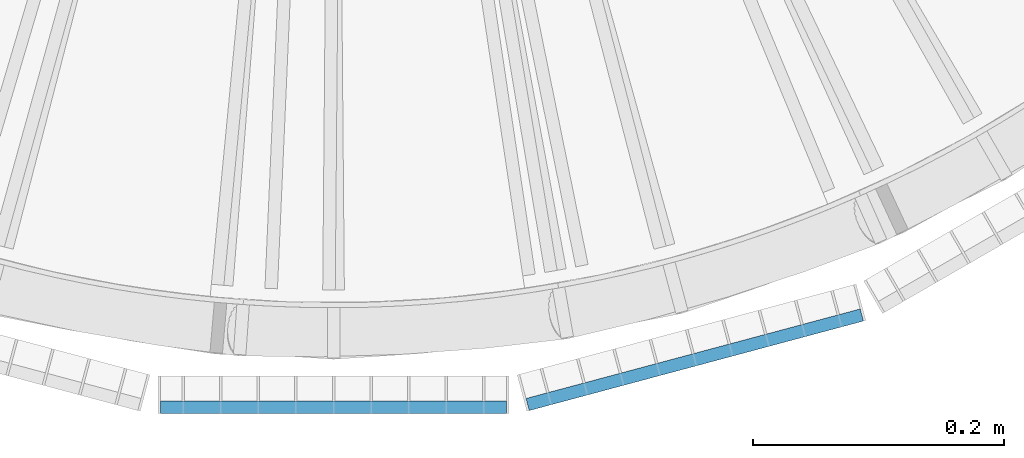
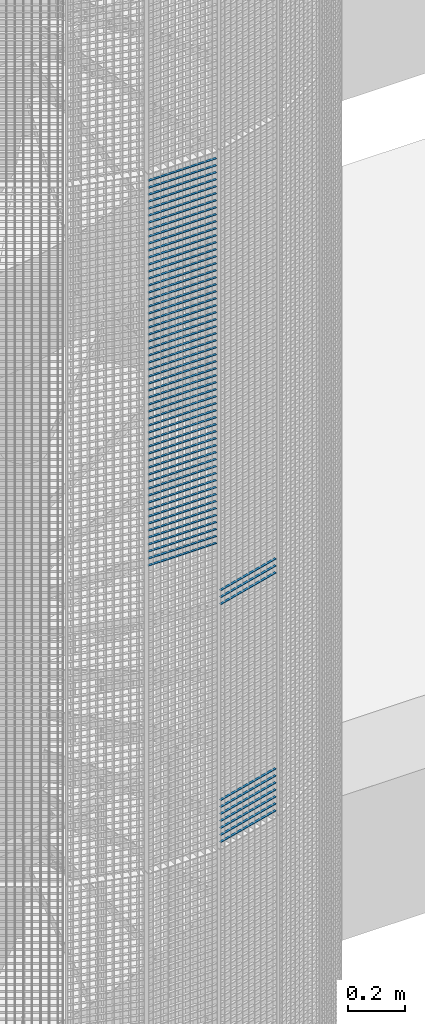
# One storey, part 148 of 1148: 66 beams, 2 elements without a shape of their own.
"""IFC2X3 building model written with IfcOpenShell, lengths in millimetres."""

from ifc_helpers import new_model, si_unit, frame, origin_with_axes, origin_2d_with_axis, place, context, subcontext, project, spatial, rectangle, extrude, material, type_object, element, aggregate, save


model = new_model("IFC2X3")

# Units and contexts
model_context = context("Model", 3, precision=1e-05, world=origin_with_axes())
body_context = subcontext(model_context, "Body", "Model", "MODEL_VIEW")
ifc_project = project(units=[si_unit("LENGTHUNIT", "METRE", prefix="MILLI"), si_unit("AREAUNIT", "SQUARE_METRE"), si_unit("VOLUMEUNIT", "CUBIC_METRE"), si_unit("MASSUNIT", "GRAM", prefix="KILO"), si_unit("TIMEUNIT", "SECOND"), si_unit("PLANEANGLEUNIT", "RADIAN"), si_unit("SOLIDANGLEUNIT", "STERADIAN"), si_unit("THERMODYNAMICTEMPERATUREUNIT", "DEGREE_CELSIUS"), si_unit("LUMINOUSINTENSITYUNIT", "LUMEN")], contexts=[model_context])

# Site, building, storey
site_placement = place(None, origin_with_axes())
site = spatial("IfcSite", under=ifc_project, at=site_placement, Name="Undefined", CompositionType="ELEMENT")
building_placement = place(site_placement, origin_with_axes())
building = spatial("IfcBuilding", under=site, at=building_placement, Name="Undefined", CompositionType="ELEMENT")
storey_placement = place(building_placement, origin_with_axes())
storey = spatial("IfcBuildingStorey", under=building, at=storey_placement, Name="Undefined", CompositionType="ELEMENT", Elevation=0.0)

# Assembly, beams
assembly_1_placement = place(storey_placement, origin_with_axes())
assembly_1 = element("IfcElementAssembly", 1, at=assembly_1_placement, inside=storey, Name="BORDURE", AssemblyPlace="NOTDEFINED", PredefinedType="NOTDEFINED")
ifc_material = material(Name="STEEL/S235JR")
beam_type = type_object("IfcBeamType", Name="PL2*10", PredefinedType="NOTDEFINED")
beam_1_placement = place(assembly_1_placement, frame((154.895926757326, -1111.25508286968, 9210.0), z_axis=(0.258819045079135, -0.965925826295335, 0.0), x_axis=(0.965925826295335, 0.258819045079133, 0.0)))
beam_1 = element("IfcBeam", 2, at=beam_1_placement, type_object=beam_type, material=ifc_material, Name="ENTRETOISE", context=body_context, shape_type="SweptSolid", body=[
    extrude(rectangle(XDim=2.0, YDim=10.0, at=origin_2d_with_axis()), frame((275.999999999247, 9.09494701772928e-13, 1.53210777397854e-14), z_axis=(-1.0, 0.0, 0.0), x_axis=(0.0, -1.0, 0.0)), (0.0, 0.0, 1.0), 276.0),
])
beam_2_placement = place(assembly_1_placement, frame((154.895926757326, -1111.25508286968, 9180.0), z_axis=(0.258819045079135, -0.965925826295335, 0.0), x_axis=(0.965925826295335, 0.258819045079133, 0.0)))
beam_2 = element("IfcBeam", 3, at=beam_2_placement, type_object=beam_type, material=ifc_material, Name="ENTRETOISE", context=body_context, shape_type="SweptSolid", body=[
    extrude(rectangle(XDim=2.0, YDim=10.0, at=origin_2d_with_axis()), frame((275.999999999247, 9.09494701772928e-13, 1.53210777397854e-14), z_axis=(-1.0, 0.0, 0.0), x_axis=(0.0, -1.0, 0.0)), (0.0, 0.0, 1.0), 276.0),
])
beam_3_placement = place(assembly_1_placement, frame((154.895926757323, -1111.25508286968, 10050.0), z_axis=(0.258819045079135, -0.965925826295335, 0.0), x_axis=(0.965925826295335, 0.258819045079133, 0.0)))
beam_3 = element("IfcBeam", 4, at=beam_3_placement, type_object=beam_type, material=ifc_material, Name="ENTRETOISE", context=body_context, shape_type="SweptSolid", body=[
    extrude(rectangle(XDim=2.0, YDim=10.0, at=origin_2d_with_axis()), frame((275.999999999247, 9.09494701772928e-13, 1.53210777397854e-14), z_axis=(-1.0, 0.0, 0.0), x_axis=(0.0, -1.0, 0.0)), (0.0, 0.0, 1.0), 276.0),
])
beam_4_placement = place(assembly_1_placement, frame((154.895926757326, -1111.25508286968, 9150.0), z_axis=(0.258819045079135, -0.965925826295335, 0.0), x_axis=(0.965925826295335, 0.258819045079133, 0.0)))
beam_4 = element("IfcBeam", 5, at=beam_4_placement, type_object=beam_type, material=ifc_material, Name="ENTRETOISE", context=body_context, shape_type="SweptSolid", body=[
    extrude(rectangle(XDim=2.0, YDim=10.0, at=origin_2d_with_axis()), frame((275.999999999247, 9.09494701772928e-13, 1.53210777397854e-14), z_axis=(-1.0, 0.0, 0.0), x_axis=(0.0, -1.0, 0.0)), (0.0, 0.0, 1.0), 276.0),
])
beam_5_placement = place(assembly_1_placement, frame((154.895926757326, -1111.25508286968, 9120.0), z_axis=(0.258819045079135, -0.965925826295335, 0.0), x_axis=(0.965925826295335, 0.258819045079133, 0.0)))
beam_5 = element("IfcBeam", 6, at=beam_5_placement, type_object=beam_type, material=ifc_material, Name="ENTRETOISE", context=body_context, shape_type="SweptSolid", body=[
    extrude(rectangle(XDim=2.0, YDim=10.0, at=origin_2d_with_axis()), frame((275.999999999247, 9.09494701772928e-13, 1.53210777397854e-14), z_axis=(-1.0, 0.0, 0.0), x_axis=(0.0, -1.0, 0.0)), (0.0, 0.0, 1.0), 276.0),
])
beam_6_placement = place(assembly_1_placement, frame((154.895926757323, -1111.25508286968, 10080.0), z_axis=(0.258819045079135, -0.965925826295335, 0.0), x_axis=(0.965925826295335, 0.258819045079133, 0.0)))
beam_6 = element("IfcBeam", 7, at=beam_6_placement, type_object=beam_type, material=ifc_material, Name="ENTRETOISE", context=body_context, shape_type="SweptSolid", body=[
    extrude(rectangle(XDim=2.0, YDim=10.0, at=origin_2d_with_axis()), frame((275.999999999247, 9.09494701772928e-13, 1.53210777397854e-14), z_axis=(-1.0, 0.0, 0.0), x_axis=(0.0, -1.0, 0.0)), (0.0, 0.0, 1.0), 276.0),
])
beam_7_placement = place(assembly_1_placement, frame((154.895926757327, -1111.25508286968, 9090.0), z_axis=(0.258819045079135, -0.965925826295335, 0.0), x_axis=(0.965925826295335, 0.258819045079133, 0.0)))
beam_7 = element("IfcBeam", 8, at=beam_7_placement, type_object=beam_type, material=ifc_material, Name="ENTRETOISE", context=body_context, shape_type="SweptSolid", body=[
    extrude(rectangle(XDim=2.0, YDim=10.0, at=origin_2d_with_axis()), frame((275.999999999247, 9.09494701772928e-13, 1.53210777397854e-14), z_axis=(-1.0, 0.0, 0.0), x_axis=(0.0, -1.0, 0.0)), (0.0, 0.0, 1.0), 276.0),
])
beam_8_placement = place(assembly_1_placement, frame((154.895926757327, -1111.25508286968, 9060.0), z_axis=(0.258819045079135, -0.965925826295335, 0.0), x_axis=(0.965925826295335, 0.258819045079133, 0.0)))
beam_8 = element("IfcBeam", 9, at=beam_8_placement, type_object=beam_type, material=ifc_material, Name="ENTRETOISE", context=body_context, shape_type="SweptSolid", body=[
    extrude(rectangle(XDim=2.0, YDim=10.0, at=origin_2d_with_axis()), frame((275.999999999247, 9.09494701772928e-13, 1.53210777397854e-14), z_axis=(-1.0, 0.0, 0.0), x_axis=(0.0, -1.0, 0.0)), (0.0, 0.0, 1.0), 276.0),
])
beam_9_placement = place(assembly_1_placement, frame((154.895926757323, -1111.25508286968, 10110.0), z_axis=(0.258819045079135, -0.965925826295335, 0.0), x_axis=(0.965925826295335, 0.258819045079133, 0.0)))
beam_9 = element("IfcBeam", 10, at=beam_9_placement, type_object=beam_type, material=ifc_material, Name="ENTRETOISE", context=body_context, shape_type="SweptSolid", body=[
    extrude(rectangle(XDim=2.0, YDim=10.0, at=origin_2d_with_axis()), frame((275.999999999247, 9.09494701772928e-13, 1.53210777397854e-14), z_axis=(-1.0, 0.0, 0.0), x_axis=(0.0, -1.0, 0.0)), (0.0, 0.0, 1.0), 276.0),
])
beam_10_placement = place(assembly_1_placement, frame((154.895926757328, -1111.25508286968, 9030.0), z_axis=(0.258819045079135, -0.965925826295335, 0.0), x_axis=(0.965925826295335, 0.258819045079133, 0.0)))
beam_10 = element("IfcBeam", 11, at=beam_10_placement, type_object=beam_type, material=ifc_material, Name="ENTRETOISE", context=body_context, shape_type="SweptSolid", body=[
    extrude(rectangle(XDim=2.0, YDim=10.0, at=origin_2d_with_axis()), frame((275.999999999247, 9.09494701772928e-13, 1.53210777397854e-14), z_axis=(-1.0, 0.0, 0.0), x_axis=(0.0, -1.0, 0.0)), (0.0, 0.0, 1.0), 276.0),
])
aggregate(assembly_1, [beam_1, beam_2, beam_3, beam_4, beam_5, beam_6, beam_7, beam_8, beam_9, beam_10])

assembly_2_placement = place(storey_placement, origin_with_axes())
assembly_2 = element("IfcElementAssembly", 12, at=assembly_2_placement, inside=storey, Name="BORDURE", AssemblyPlace="NOTDEFINED", PredefinedType="NOTDEFINED")
beam_11_placement = place(assembly_2_placement, frame((-137.996003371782, -1113.47999999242, 11970.0), z_axis=(0.0, -1.0, 0.0), x_axis=(1.0, 0.0, 0.0)))
beam_11 = element("IfcBeam", 13, at=beam_11_placement, type_object=beam_type, material=ifc_material, Name="ENTRETOISE", context=body_context, shape_type="SweptSolid", body=[
    extrude(rectangle(XDim=2.0, YDim=10.0, at=origin_2d_with_axis()), frame((275.999999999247, 9.09494701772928e-13, 1.53210777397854e-14), z_axis=(-1.0, 0.0, 0.0), x_axis=(0.0, -1.0, 0.0)), (0.0, 0.0, 1.0), 276.0),
])
beam_12_placement = place(assembly_2_placement, frame((-137.996003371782, -1113.47999999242, 11940.0), z_axis=(0.0, -1.0, 0.0), x_axis=(1.0, 0.0, 0.0)))
beam_12 = element("IfcBeam", 14, at=beam_12_placement, type_object=beam_type, material=ifc_material, Name="ENTRETOISE", context=body_context, shape_type="SweptSolid", body=[
    extrude(rectangle(XDim=2.0, YDim=10.0, at=origin_2d_with_axis()), frame((275.999999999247, 9.09494701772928e-13, 1.53210777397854e-14), z_axis=(-1.0, 0.0, 0.0), x_axis=(0.0, -1.0, 0.0)), (0.0, 0.0, 1.0), 276.0),
])
beam_13_placement = place(assembly_2_placement, frame((-137.996003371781, -1113.47999999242, 11910.0), z_axis=(0.0, -1.0, 0.0), x_axis=(1.0, 0.0, 0.0)))
beam_13 = element("IfcBeam", 15, at=beam_13_placement, type_object=beam_type, material=ifc_material, Name="ENTRETOISE", context=body_context, shape_type="SweptSolid", body=[
    extrude(rectangle(XDim=2.0, YDim=10.0, at=origin_2d_with_axis()), frame((275.999999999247, 9.09494701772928e-13, 1.53210777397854e-14), z_axis=(-1.0, 0.0, 0.0), x_axis=(0.0, -1.0, 0.0)), (0.0, 0.0, 1.0), 276.0),
])
beam_14_placement = place(assembly_2_placement, frame((-137.996003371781, -1113.47999999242, 11880.0), z_axis=(0.0, -1.0, 0.0), x_axis=(1.0, 0.0, 0.0)))
beam_14 = element("IfcBeam", 16, at=beam_14_placement, type_object=beam_type, material=ifc_material, Name="ENTRETOISE", context=body_context, shape_type="SweptSolid", body=[
    extrude(rectangle(XDim=2.0, YDim=10.0, at=origin_2d_with_axis()), frame((275.999999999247, 9.09494701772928e-13, 1.53210777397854e-14), z_axis=(-1.0, 0.0, 0.0), x_axis=(0.0, -1.0, 0.0)), (0.0, 0.0, 1.0), 276.0),
])
beam_15_placement = place(assembly_2_placement, frame((-137.996003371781, -1113.47999999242, 11850.0), z_axis=(0.0, -1.0, 0.0), x_axis=(1.0, 0.0, 0.0)))
beam_15 = element("IfcBeam", 17, at=beam_15_placement, type_object=beam_type, material=ifc_material, Name="ENTRETOISE", context=body_context, shape_type="SweptSolid", body=[
    extrude(rectangle(XDim=2.0, YDim=10.0, at=origin_2d_with_axis()), frame((275.999999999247, 9.09494701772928e-13, 1.53210777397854e-14), z_axis=(-1.0, 0.0, 0.0), x_axis=(0.0, -1.0, 0.0)), (0.0, 0.0, 1.0), 276.0),
])
beam_16_placement = place(assembly_2_placement, frame((-137.996003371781, -1113.47999999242, 11820.0), z_axis=(0.0, -1.0, 0.0), x_axis=(1.0, 0.0, 0.0)))
beam_16 = element("IfcBeam", 18, at=beam_16_placement, type_object=beam_type, material=ifc_material, Name="ENTRETOISE", context=body_context, shape_type="SweptSolid", body=[
    extrude(rectangle(XDim=2.0, YDim=10.0, at=origin_2d_with_axis()), frame((275.999999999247, 9.09494701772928e-13, 1.53210777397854e-14), z_axis=(-1.0, 0.0, 0.0), x_axis=(0.0, -1.0, 0.0)), (0.0, 0.0, 1.0), 276.0),
])
beam_17_placement = place(assembly_2_placement, frame((-137.996003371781, -1113.47999999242, 11790.0), z_axis=(0.0, -1.0, 0.0), x_axis=(1.0, 0.0, 0.0)))
beam_17 = element("IfcBeam", 19, at=beam_17_placement, type_object=beam_type, material=ifc_material, Name="ENTRETOISE", context=body_context, shape_type="SweptSolid", body=[
    extrude(rectangle(XDim=2.0, YDim=10.0, at=origin_2d_with_axis()), frame((275.999999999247, 9.09494701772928e-13, 1.53210777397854e-14), z_axis=(-1.0, 0.0, 0.0), x_axis=(0.0, -1.0, 0.0)), (0.0, 0.0, 1.0), 276.0),
])
beam_18_placement = place(assembly_2_placement, frame((-137.996003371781, -1113.47999999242, 11760.0), z_axis=(0.0, -1.0, 0.0), x_axis=(1.0, 0.0, 0.0)))
beam_18 = element("IfcBeam", 20, at=beam_18_placement, type_object=beam_type, material=ifc_material, Name="ENTRETOISE", context=body_context, shape_type="SweptSolid", body=[
    extrude(rectangle(XDim=2.0, YDim=10.0, at=origin_2d_with_axis()), frame((275.999999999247, 9.09494701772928e-13, 1.53210777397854e-14), z_axis=(-1.0, 0.0, 0.0), x_axis=(0.0, -1.0, 0.0)), (0.0, 0.0, 1.0), 276.0),
])
beam_19_placement = place(assembly_2_placement, frame((-137.996003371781, -1113.47999999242, 11730.0), z_axis=(0.0, -1.0, 0.0), x_axis=(1.0, 0.0, 0.0)))
beam_19 = element("IfcBeam", 21, at=beam_19_placement, type_object=beam_type, material=ifc_material, Name="ENTRETOISE", context=body_context, shape_type="SweptSolid", body=[
    extrude(rectangle(XDim=2.0, YDim=10.0, at=origin_2d_with_axis()), frame((275.999999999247, 9.09494701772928e-13, 1.53210777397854e-14), z_axis=(-1.0, 0.0, 0.0), x_axis=(0.0, -1.0, 0.0)), (0.0, 0.0, 1.0), 276.0),
])
beam_20_placement = place(assembly_2_placement, frame((-137.996003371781, -1113.47999999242, 11700.0), z_axis=(0.0, -1.0, 0.0), x_axis=(1.0, 0.0, 0.0)))
beam_20 = element("IfcBeam", 22, at=beam_20_placement, type_object=beam_type, material=ifc_material, Name="ENTRETOISE", context=body_context, shape_type="SweptSolid", body=[
    extrude(rectangle(XDim=2.0, YDim=10.0, at=origin_2d_with_axis()), frame((275.999999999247, 9.09494701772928e-13, 1.53210777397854e-14), z_axis=(-1.0, 0.0, 0.0), x_axis=(0.0, -1.0, 0.0)), (0.0, 0.0, 1.0), 276.0),
])
beam_21_placement = place(assembly_2_placement, frame((-137.996003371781, -1113.47999999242, 11670.0), z_axis=(0.0, -1.0, 0.0), x_axis=(1.0, 0.0, 0.0)))
beam_21 = element("IfcBeam", 23, at=beam_21_placement, type_object=beam_type, material=ifc_material, Name="ENTRETOISE", context=body_context, shape_type="SweptSolid", body=[
    extrude(rectangle(XDim=2.0, YDim=10.0, at=origin_2d_with_axis()), frame((275.999999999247, 9.09494701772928e-13, 1.53210777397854e-14), z_axis=(-1.0, 0.0, 0.0), x_axis=(0.0, -1.0, 0.0)), (0.0, 0.0, 1.0), 276.0),
])
beam_22_placement = place(assembly_2_placement, frame((-137.996003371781, -1113.47999999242, 11640.0), z_axis=(0.0, -1.0, 0.0), x_axis=(1.0, 0.0, 0.0)))
beam_22 = element("IfcBeam", 24, at=beam_22_placement, type_object=beam_type, material=ifc_material, Name="ENTRETOISE", context=body_context, shape_type="SweptSolid", body=[
    extrude(rectangle(XDim=2.0, YDim=10.0, at=origin_2d_with_axis()), frame((275.999999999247, 9.09494701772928e-13, 1.53210777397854e-14), z_axis=(-1.0, 0.0, 0.0), x_axis=(0.0, -1.0, 0.0)), (0.0, 0.0, 1.0), 276.0),
])
beam_23_placement = place(assembly_2_placement, frame((-137.99600337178, -1113.47999999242, 11610.0), z_axis=(0.0, -1.0, 0.0), x_axis=(1.0, 0.0, 0.0)))
beam_23 = element("IfcBeam", 25, at=beam_23_placement, type_object=beam_type, material=ifc_material, Name="ENTRETOISE", context=body_context, shape_type="SweptSolid", body=[
    extrude(rectangle(XDim=2.0, YDim=10.0, at=origin_2d_with_axis()), frame((275.999999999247, 9.09494701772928e-13, 1.53210777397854e-14), z_axis=(-1.0, 0.0, 0.0), x_axis=(0.0, -1.0, 0.0)), (0.0, 0.0, 1.0), 276.0),
])
beam_24_placement = place(assembly_2_placement, frame((-137.99600337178, -1113.47999999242, 11580.0), z_axis=(0.0, -1.0, 0.0), x_axis=(1.0, 0.0, 0.0)))
beam_24 = element("IfcBeam", 26, at=beam_24_placement, type_object=beam_type, material=ifc_material, Name="ENTRETOISE", context=body_context, shape_type="SweptSolid", body=[
    extrude(rectangle(XDim=2.0, YDim=10.0, at=origin_2d_with_axis()), frame((275.999999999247, 9.09494701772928e-13, 1.53210777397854e-14), z_axis=(-1.0, 0.0, 0.0), x_axis=(0.0, -1.0, 0.0)), (0.0, 0.0, 1.0), 276.0),
])
beam_25_placement = place(assembly_2_placement, frame((-137.99600337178, -1113.47999999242, 11550.0), z_axis=(0.0, -1.0, 0.0), x_axis=(1.0, 0.0, 0.0)))
beam_25 = element("IfcBeam", 27, at=beam_25_placement, type_object=beam_type, material=ifc_material, Name="ENTRETOISE", context=body_context, shape_type="SweptSolid", body=[
    extrude(rectangle(XDim=2.0, YDim=10.0, at=origin_2d_with_axis()), frame((275.999999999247, 9.09494701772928e-13, 1.53210777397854e-14), z_axis=(-1.0, 0.0, 0.0), x_axis=(0.0, -1.0, 0.0)), (0.0, 0.0, 1.0), 276.0),
])
beam_26_placement = place(assembly_2_placement, frame((-137.99600337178, -1113.47999999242, 11520.0), z_axis=(0.0, -1.0, 0.0), x_axis=(1.0, 0.0, 0.0)))
beam_26 = element("IfcBeam", 28, at=beam_26_placement, type_object=beam_type, material=ifc_material, Name="ENTRETOISE", context=body_context, shape_type="SweptSolid", body=[
    extrude(rectangle(XDim=2.0, YDim=10.0, at=origin_2d_with_axis()), frame((275.999999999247, 9.09494701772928e-13, 1.53210777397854e-14), z_axis=(-1.0, 0.0, 0.0), x_axis=(0.0, -1.0, 0.0)), (0.0, 0.0, 1.0), 276.0),
])
beam_27_placement = place(assembly_2_placement, frame((-137.99600337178, -1113.47999999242, 11490.0), z_axis=(0.0, -1.0, 0.0), x_axis=(1.0, 0.0, 0.0)))
beam_27 = element("IfcBeam", 29, at=beam_27_placement, type_object=beam_type, material=ifc_material, Name="ENTRETOISE", context=body_context, shape_type="SweptSolid", body=[
    extrude(rectangle(XDim=2.0, YDim=10.0, at=origin_2d_with_axis()), frame((275.999999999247, 9.09494701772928e-13, 1.53210777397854e-14), z_axis=(-1.0, 0.0, 0.0), x_axis=(0.0, -1.0, 0.0)), (0.0, 0.0, 1.0), 276.0),
])
beam_28_placement = place(assembly_2_placement, frame((-137.99600337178, -1113.47999999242, 11460.0), z_axis=(0.0, -1.0, 0.0), x_axis=(1.0, 0.0, 0.0)))
beam_28 = element("IfcBeam", 30, at=beam_28_placement, type_object=beam_type, material=ifc_material, Name="ENTRETOISE", context=body_context, shape_type="SweptSolid", body=[
    extrude(rectangle(XDim=2.0, YDim=10.0, at=origin_2d_with_axis()), frame((275.999999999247, 9.09494701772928e-13, 1.53210777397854e-14), z_axis=(-1.0, 0.0, 0.0), x_axis=(0.0, -1.0, 0.0)), (0.0, 0.0, 1.0), 276.0),
])
beam_29_placement = place(assembly_2_placement, frame((-137.99600337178, -1113.47999999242, 11430.0), z_axis=(0.0, -1.0, 0.0), x_axis=(1.0, 0.0, 0.0)))
beam_29 = element("IfcBeam", 31, at=beam_29_placement, type_object=beam_type, material=ifc_material, Name="ENTRETOISE", context=body_context, shape_type="SweptSolid", body=[
    extrude(rectangle(XDim=2.0, YDim=10.0, at=origin_2d_with_axis()), frame((275.999999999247, 9.09494701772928e-13, 1.53210777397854e-14), z_axis=(-1.0, 0.0, 0.0), x_axis=(0.0, -1.0, 0.0)), (0.0, 0.0, 1.0), 276.0),
])
beam_30_placement = place(assembly_2_placement, frame((-137.99600337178, -1113.47999999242, 11400.0), z_axis=(0.0, -1.0, 0.0), x_axis=(1.0, 0.0, 0.0)))
beam_30 = element("IfcBeam", 32, at=beam_30_placement, type_object=beam_type, material=ifc_material, Name="ENTRETOISE", context=body_context, shape_type="SweptSolid", body=[
    extrude(rectangle(XDim=2.0, YDim=10.0, at=origin_2d_with_axis()), frame((275.999999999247, 9.09494701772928e-13, 1.53210777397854e-14), z_axis=(-1.0, 0.0, 0.0), x_axis=(0.0, -1.0, 0.0)), (0.0, 0.0, 1.0), 276.0),
])
beam_31_placement = place(assembly_2_placement, frame((-137.99600337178, -1113.47999999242, 11370.0), z_axis=(0.0, -1.0, 0.0), x_axis=(1.0, 0.0, 0.0)))
beam_31 = element("IfcBeam", 33, at=beam_31_placement, type_object=beam_type, material=ifc_material, Name="ENTRETOISE", context=body_context, shape_type="SweptSolid", body=[
    extrude(rectangle(XDim=2.0, YDim=10.0, at=origin_2d_with_axis()), frame((275.999999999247, 9.09494701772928e-13, 1.53210777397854e-14), z_axis=(-1.0, 0.0, 0.0), x_axis=(0.0, -1.0, 0.0)), (0.0, 0.0, 1.0), 276.0),
])
beam_32_placement = place(assembly_2_placement, frame((-137.99600337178, -1113.47999999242, 11340.0), z_axis=(0.0, -1.0, 0.0), x_axis=(1.0, 0.0, 0.0)))
beam_32 = element("IfcBeam", 34, at=beam_32_placement, type_object=beam_type, material=ifc_material, Name="ENTRETOISE", context=body_context, shape_type="SweptSolid", body=[
    extrude(rectangle(XDim=2.0, YDim=10.0, at=origin_2d_with_axis()), frame((275.999999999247, 9.09494701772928e-13, 1.53210777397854e-14), z_axis=(-1.0, 0.0, 0.0), x_axis=(0.0, -1.0, 0.0)), (0.0, 0.0, 1.0), 276.0),
])
beam_33_placement = place(assembly_2_placement, frame((-137.996003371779, -1113.47999999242, 11310.0), z_axis=(0.0, -1.0, 0.0), x_axis=(1.0, 0.0, 0.0)))
beam_33 = element("IfcBeam", 35, at=beam_33_placement, type_object=beam_type, material=ifc_material, Name="ENTRETOISE", context=body_context, shape_type="SweptSolid", body=[
    extrude(rectangle(XDim=2.0, YDim=10.0, at=origin_2d_with_axis()), frame((275.999999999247, 9.09494701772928e-13, 1.53210777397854e-14), z_axis=(-1.0, 0.0, 0.0), x_axis=(0.0, -1.0, 0.0)), (0.0, 0.0, 1.0), 276.0),
])
beam_34_placement = place(assembly_2_placement, frame((-137.996003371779, -1113.47999999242, 11280.0), z_axis=(0.0, -1.0, 0.0), x_axis=(1.0, 0.0, 0.0)))
beam_34 = element("IfcBeam", 36, at=beam_34_placement, type_object=beam_type, material=ifc_material, Name="ENTRETOISE", context=body_context, shape_type="SweptSolid", body=[
    extrude(rectangle(XDim=2.0, YDim=10.0, at=origin_2d_with_axis()), frame((275.999999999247, 9.09494701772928e-13, 1.53210777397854e-14), z_axis=(-1.0, 0.0, 0.0), x_axis=(0.0, -1.0, 0.0)), (0.0, 0.0, 1.0), 276.0),
])
beam_35_placement = place(assembly_2_placement, frame((-137.996003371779, -1113.47999999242, 11250.0), z_axis=(0.0, -1.0, 0.0), x_axis=(1.0, 0.0, 0.0)))
beam_35 = element("IfcBeam", 37, at=beam_35_placement, type_object=beam_type, material=ifc_material, Name="ENTRETOISE", context=body_context, shape_type="SweptSolid", body=[
    extrude(rectangle(XDim=2.0, YDim=10.0, at=origin_2d_with_axis()), frame((275.999999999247, 9.09494701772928e-13, 1.53210777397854e-14), z_axis=(-1.0, 0.0, 0.0), x_axis=(0.0, -1.0, 0.0)), (0.0, 0.0, 1.0), 276.0),
])
beam_36_placement = place(assembly_2_placement, frame((-137.996003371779, -1113.47999999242, 11220.0), z_axis=(0.0, -1.0, 0.0), x_axis=(1.0, 0.0, 0.0)))
beam_36 = element("IfcBeam", 38, at=beam_36_placement, type_object=beam_type, material=ifc_material, Name="ENTRETOISE", context=body_context, shape_type="SweptSolid", body=[
    extrude(rectangle(XDim=2.0, YDim=10.0, at=origin_2d_with_axis()), frame((275.999999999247, 9.09494701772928e-13, 1.53210777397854e-14), z_axis=(-1.0, 0.0, 0.0), x_axis=(0.0, -1.0, 0.0)), (0.0, 0.0, 1.0), 276.0),
])
beam_37_placement = place(assembly_2_placement, frame((-137.996003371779, -1113.47999999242, 11190.0), z_axis=(0.0, -1.0, 0.0), x_axis=(1.0, 0.0, 0.0)))
beam_37 = element("IfcBeam", 39, at=beam_37_placement, type_object=beam_type, material=ifc_material, Name="ENTRETOISE", context=body_context, shape_type="SweptSolid", body=[
    extrude(rectangle(XDim=2.0, YDim=10.0, at=origin_2d_with_axis()), frame((275.999999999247, 9.09494701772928e-13, 1.53210777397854e-14), z_axis=(-1.0, 0.0, 0.0), x_axis=(0.0, -1.0, 0.0)), (0.0, 0.0, 1.0), 276.0),
])
beam_38_placement = place(assembly_2_placement, frame((-137.996003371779, -1113.47999999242, 11160.0), z_axis=(0.0, -1.0, 0.0), x_axis=(1.0, 0.0, 0.0)))
beam_38 = element("IfcBeam", 40, at=beam_38_placement, type_object=beam_type, material=ifc_material, Name="ENTRETOISE", context=body_context, shape_type="SweptSolid", body=[
    extrude(rectangle(XDim=2.0, YDim=10.0, at=origin_2d_with_axis()), frame((275.999999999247, 9.09494701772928e-13, 1.53210777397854e-14), z_axis=(-1.0, 0.0, 0.0), x_axis=(0.0, -1.0, 0.0)), (0.0, 0.0, 1.0), 276.0),
])
beam_39_placement = place(assembly_2_placement, frame((-137.996003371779, -1113.47999999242, 11130.0), z_axis=(0.0, -1.0, 0.0), x_axis=(1.0, 0.0, 0.0)))
beam_39 = element("IfcBeam", 41, at=beam_39_placement, type_object=beam_type, material=ifc_material, Name="ENTRETOISE", context=body_context, shape_type="SweptSolid", body=[
    extrude(rectangle(XDim=2.0, YDim=10.0, at=origin_2d_with_axis()), frame((275.999999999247, 9.09494701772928e-13, 1.53210777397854e-14), z_axis=(-1.0, 0.0, 0.0), x_axis=(0.0, -1.0, 0.0)), (0.0, 0.0, 1.0), 276.0),
])
beam_40_placement = place(assembly_2_placement, frame((-137.996003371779, -1113.47999999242, 11100.0), z_axis=(0.0, -1.0, 0.0), x_axis=(1.0, 0.0, 0.0)))
beam_40 = element("IfcBeam", 42, at=beam_40_placement, type_object=beam_type, material=ifc_material, Name="ENTRETOISE", context=body_context, shape_type="SweptSolid", body=[
    extrude(rectangle(XDim=2.0, YDim=10.0, at=origin_2d_with_axis()), frame((275.999999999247, 9.09494701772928e-13, 1.53210777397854e-14), z_axis=(-1.0, 0.0, 0.0), x_axis=(0.0, -1.0, 0.0)), (0.0, 0.0, 1.0), 276.0),
])
beam_41_placement = place(assembly_2_placement, frame((-137.996003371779, -1113.47999999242, 11070.0), z_axis=(0.0, -1.0, 0.0), x_axis=(1.0, 0.0, 0.0)))
beam_41 = element("IfcBeam", 43, at=beam_41_placement, type_object=beam_type, material=ifc_material, Name="ENTRETOISE", context=body_context, shape_type="SweptSolid", body=[
    extrude(rectangle(XDim=2.0, YDim=10.0, at=origin_2d_with_axis()), frame((275.999999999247, 9.09494701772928e-13, 1.53210777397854e-14), z_axis=(-1.0, 0.0, 0.0), x_axis=(0.0, -1.0, 0.0)), (0.0, 0.0, 1.0), 276.0),
])
beam_42_placement = place(assembly_2_placement, frame((-137.996003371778, -1113.47999999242, 11040.0), z_axis=(0.0, -1.0, 0.0), x_axis=(1.0, 0.0, 0.0)))
beam_42 = element("IfcBeam", 44, at=beam_42_placement, type_object=beam_type, material=ifc_material, Name="ENTRETOISE", context=body_context, shape_type="SweptSolid", body=[
    extrude(rectangle(XDim=2.0, YDim=10.0, at=origin_2d_with_axis()), frame((275.999999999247, 9.09494701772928e-13, 1.53210777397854e-14), z_axis=(-1.0, 0.0, 0.0), x_axis=(0.0, -1.0, 0.0)), (0.0, 0.0, 1.0), 276.0),
])
beam_43_placement = place(assembly_2_placement, frame((-137.996003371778, -1113.47999999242, 11010.0), z_axis=(0.0, -1.0, 0.0), x_axis=(1.0, 0.0, 0.0)))
beam_43 = element("IfcBeam", 45, at=beam_43_placement, type_object=beam_type, material=ifc_material, Name="ENTRETOISE", context=body_context, shape_type="SweptSolid", body=[
    extrude(rectangle(XDim=2.0, YDim=10.0, at=origin_2d_with_axis()), frame((275.999999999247, 9.09494701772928e-13, 1.53210777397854e-14), z_axis=(-1.0, 0.0, 0.0), x_axis=(0.0, -1.0, 0.0)), (0.0, 0.0, 1.0), 276.0),
])
beam_44_placement = place(assembly_2_placement, frame((-137.996003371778, -1113.47999999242, 10980.0), z_axis=(0.0, -1.0, 0.0), x_axis=(1.0, 0.0, 0.0)))
beam_44 = element("IfcBeam", 46, at=beam_44_placement, type_object=beam_type, material=ifc_material, Name="ENTRETOISE", context=body_context, shape_type="SweptSolid", body=[
    extrude(rectangle(XDim=2.0, YDim=10.0, at=origin_2d_with_axis()), frame((275.999999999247, 9.09494701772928e-13, 1.53210777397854e-14), z_axis=(-1.0, 0.0, 0.0), x_axis=(0.0, -1.0, 0.0)), (0.0, 0.0, 1.0), 276.0),
])
beam_45_placement = place(assembly_2_placement, frame((-137.996003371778, -1113.47999999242, 10950.0), z_axis=(0.0, -1.0, 0.0), x_axis=(1.0, 0.0, 0.0)))
beam_45 = element("IfcBeam", 47, at=beam_45_placement, type_object=beam_type, material=ifc_material, Name="ENTRETOISE", context=body_context, shape_type="SweptSolid", body=[
    extrude(rectangle(XDim=2.0, YDim=10.0, at=origin_2d_with_axis()), frame((275.999999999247, 9.09494701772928e-13, 1.53210777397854e-14), z_axis=(-1.0, 0.0, 0.0), x_axis=(0.0, -1.0, 0.0)), (0.0, 0.0, 1.0), 276.0),
])
beam_46_placement = place(assembly_2_placement, frame((-137.996003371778, -1113.47999999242, 10920.0), z_axis=(0.0, -1.0, 0.0), x_axis=(1.0, 0.0, 0.0)))
beam_46 = element("IfcBeam", 48, at=beam_46_placement, type_object=beam_type, material=ifc_material, Name="ENTRETOISE", context=body_context, shape_type="SweptSolid", body=[
    extrude(rectangle(XDim=2.0, YDim=10.0, at=origin_2d_with_axis()), frame((275.999999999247, 9.09494701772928e-13, 1.53210777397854e-14), z_axis=(-1.0, 0.0, 0.0), x_axis=(0.0, -1.0, 0.0)), (0.0, 0.0, 1.0), 276.0),
])
beam_47_placement = place(assembly_2_placement, frame((-137.996003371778, -1113.47999999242, 10890.0), z_axis=(0.0, -1.0, 0.0), x_axis=(1.0, 0.0, 0.0)))
beam_47 = element("IfcBeam", 49, at=beam_47_placement, type_object=beam_type, material=ifc_material, Name="ENTRETOISE", context=body_context, shape_type="SweptSolid", body=[
    extrude(rectangle(XDim=2.0, YDim=10.0, at=origin_2d_with_axis()), frame((275.999999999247, 9.09494701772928e-13, 1.53210777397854e-14), z_axis=(-1.0, 0.0, 0.0), x_axis=(0.0, -1.0, 0.0)), (0.0, 0.0, 1.0), 276.0),
])
beam_48_placement = place(assembly_2_placement, frame((-137.996003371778, -1113.47999999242, 10860.0), z_axis=(0.0, -1.0, 0.0), x_axis=(1.0, 0.0, 0.0)))
beam_48 = element("IfcBeam", 50, at=beam_48_placement, type_object=beam_type, material=ifc_material, Name="ENTRETOISE", context=body_context, shape_type="SweptSolid", body=[
    extrude(rectangle(XDim=2.0, YDim=10.0, at=origin_2d_with_axis()), frame((275.999999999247, 9.09494701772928e-13, 1.53210777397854e-14), z_axis=(-1.0, 0.0, 0.0), x_axis=(0.0, -1.0, 0.0)), (0.0, 0.0, 1.0), 276.0),
])
beam_49_placement = place(assembly_2_placement, frame((-137.996003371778, -1113.47999999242, 10830.0), z_axis=(0.0, -1.0, 0.0), x_axis=(1.0, 0.0, 0.0)))
beam_49 = element("IfcBeam", 51, at=beam_49_placement, type_object=beam_type, material=ifc_material, Name="ENTRETOISE", context=body_context, shape_type="SweptSolid", body=[
    extrude(rectangle(XDim=2.0, YDim=10.0, at=origin_2d_with_axis()), frame((275.999999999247, 9.09494701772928e-13, 1.53210777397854e-14), z_axis=(-1.0, 0.0, 0.0), x_axis=(0.0, -1.0, 0.0)), (0.0, 0.0, 1.0), 276.0),
])
beam_50_placement = place(assembly_2_placement, frame((-137.996003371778, -1113.47999999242, 10800.0), z_axis=(0.0, -1.0, 0.0), x_axis=(1.0, 0.0, 0.0)))
beam_50 = element("IfcBeam", 52, at=beam_50_placement, type_object=beam_type, material=ifc_material, Name="ENTRETOISE", context=body_context, shape_type="SweptSolid", body=[
    extrude(rectangle(XDim=2.0, YDim=10.0, at=origin_2d_with_axis()), frame((275.999999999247, 9.09494701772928e-13, 1.53210777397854e-14), z_axis=(-1.0, 0.0, 0.0), x_axis=(0.0, -1.0, 0.0)), (0.0, 0.0, 1.0), 276.0),
])
beam_51_placement = place(assembly_2_placement, frame((-137.996003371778, -1113.47999999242, 10770.0), z_axis=(0.0, -1.0, 0.0), x_axis=(1.0, 0.0, 0.0)))
beam_51 = element("IfcBeam", 53, at=beam_51_placement, type_object=beam_type, material=ifc_material, Name="ENTRETOISE", context=body_context, shape_type="SweptSolid", body=[
    extrude(rectangle(XDim=2.0, YDim=10.0, at=origin_2d_with_axis()), frame((275.999999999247, 9.09494701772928e-13, 1.53210777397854e-14), z_axis=(-1.0, 0.0, 0.0), x_axis=(0.0, -1.0, 0.0)), (0.0, 0.0, 1.0), 276.0),
])
beam_52_placement = place(assembly_2_placement, frame((-137.996003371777, -1113.47999999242, 10740.0), z_axis=(0.0, -1.0, 0.0), x_axis=(1.0, 0.0, 0.0)))
beam_52 = element("IfcBeam", 54, at=beam_52_placement, type_object=beam_type, material=ifc_material, Name="ENTRETOISE", context=body_context, shape_type="SweptSolid", body=[
    extrude(rectangle(XDim=2.0, YDim=10.0, at=origin_2d_with_axis()), frame((275.999999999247, 9.09494701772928e-13, 1.53210777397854e-14), z_axis=(-1.0, 0.0, 0.0), x_axis=(0.0, -1.0, 0.0)), (0.0, 0.0, 1.0), 276.0),
])
beam_53_placement = place(assembly_2_placement, frame((-137.996003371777, -1113.47999999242, 10710.0), z_axis=(0.0, -1.0, 0.0), x_axis=(1.0, 0.0, 0.0)))
beam_53 = element("IfcBeam", 55, at=beam_53_placement, type_object=beam_type, material=ifc_material, Name="ENTRETOISE", context=body_context, shape_type="SweptSolid", body=[
    extrude(rectangle(XDim=2.0, YDim=10.0, at=origin_2d_with_axis()), frame((275.999999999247, 9.09494701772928e-13, 1.53210777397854e-14), z_axis=(-1.0, 0.0, 0.0), x_axis=(0.0, -1.0, 0.0)), (0.0, 0.0, 1.0), 276.0),
])
beam_54_placement = place(assembly_2_placement, frame((-137.996003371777, -1113.47999999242, 10680.0), z_axis=(0.0, -1.0, 0.0), x_axis=(1.0, 0.0, 0.0)))
beam_54 = element("IfcBeam", 56, at=beam_54_placement, type_object=beam_type, material=ifc_material, Name="ENTRETOISE", context=body_context, shape_type="SweptSolid", body=[
    extrude(rectangle(XDim=2.0, YDim=10.0, at=origin_2d_with_axis()), frame((275.999999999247, 9.09494701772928e-13, 1.53210777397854e-14), z_axis=(-1.0, 0.0, 0.0), x_axis=(0.0, -1.0, 0.0)), (0.0, 0.0, 1.0), 276.0),
])
beam_55_placement = place(assembly_2_placement, frame((-137.996003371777, -1113.47999999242, 10650.0), z_axis=(0.0, -1.0, 0.0), x_axis=(1.0, 0.0, 0.0)))
beam_55 = element("IfcBeam", 57, at=beam_55_placement, type_object=beam_type, material=ifc_material, Name="ENTRETOISE", context=body_context, shape_type="SweptSolid", body=[
    extrude(rectangle(XDim=2.0, YDim=10.0, at=origin_2d_with_axis()), frame((275.999999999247, 9.09494701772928e-13, 1.53210777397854e-14), z_axis=(-1.0, 0.0, 0.0), x_axis=(0.0, -1.0, 0.0)), (0.0, 0.0, 1.0), 276.0),
])
beam_56_placement = place(assembly_2_placement, frame((-137.996003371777, -1113.47999999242, 10620.0), z_axis=(0.0, -1.0, 0.0), x_axis=(1.0, 0.0, 0.0)))
beam_56 = element("IfcBeam", 58, at=beam_56_placement, type_object=beam_type, material=ifc_material, Name="ENTRETOISE", context=body_context, shape_type="SweptSolid", body=[
    extrude(rectangle(XDim=2.0, YDim=10.0, at=origin_2d_with_axis()), frame((275.999999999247, 9.09494701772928e-13, 1.53210777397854e-14), z_axis=(-1.0, 0.0, 0.0), x_axis=(0.0, -1.0, 0.0)), (0.0, 0.0, 1.0), 276.0),
])
beam_57_placement = place(assembly_2_placement, frame((-137.996003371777, -1113.47999999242, 10590.0), z_axis=(0.0, -1.0, 0.0), x_axis=(1.0, 0.0, 0.0)))
beam_57 = element("IfcBeam", 59, at=beam_57_placement, type_object=beam_type, material=ifc_material, Name="ENTRETOISE", context=body_context, shape_type="SweptSolid", body=[
    extrude(rectangle(XDim=2.0, YDim=10.0, at=origin_2d_with_axis()), frame((275.999999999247, 9.09494701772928e-13, 1.53210777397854e-14), z_axis=(-1.0, 0.0, 0.0), x_axis=(0.0, -1.0, 0.0)), (0.0, 0.0, 1.0), 276.0),
])
beam_58_placement = place(assembly_2_placement, frame((-137.996003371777, -1113.47999999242, 10560.0), z_axis=(0.0, -1.0, 0.0), x_axis=(1.0, 0.0, 0.0)))
beam_58 = element("IfcBeam", 60, at=beam_58_placement, type_object=beam_type, material=ifc_material, Name="ENTRETOISE", context=body_context, shape_type="SweptSolid", body=[
    extrude(rectangle(XDim=2.0, YDim=10.0, at=origin_2d_with_axis()), frame((275.999999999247, 9.09494701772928e-13, 1.53210777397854e-14), z_axis=(-1.0, 0.0, 0.0), x_axis=(0.0, -1.0, 0.0)), (0.0, 0.0, 1.0), 276.0),
])
beam_59_placement = place(assembly_2_placement, frame((-137.996003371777, -1113.47999999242, 10530.0), z_axis=(0.0, -1.0, 0.0), x_axis=(1.0, 0.0, 0.0)))
beam_59 = element("IfcBeam", 61, at=beam_59_placement, type_object=beam_type, material=ifc_material, Name="ENTRETOISE", context=body_context, shape_type="SweptSolid", body=[
    extrude(rectangle(XDim=2.0, YDim=10.0, at=origin_2d_with_axis()), frame((275.999999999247, 9.09494701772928e-13, 1.53210777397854e-14), z_axis=(-1.0, 0.0, 0.0), x_axis=(0.0, -1.0, 0.0)), (0.0, 0.0, 1.0), 276.0),
])
beam_60_placement = place(assembly_2_placement, frame((-137.996003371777, -1113.47999999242, 10500.0), z_axis=(0.0, -1.0, 0.0), x_axis=(1.0, 0.0, 0.0)))
beam_60 = element("IfcBeam", 62, at=beam_60_placement, type_object=beam_type, material=ifc_material, Name="ENTRETOISE", context=body_context, shape_type="SweptSolid", body=[
    extrude(rectangle(XDim=2.0, YDim=10.0, at=origin_2d_with_axis()), frame((275.999999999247, 9.09494701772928e-13, 1.53210777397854e-14), z_axis=(-1.0, 0.0, 0.0), x_axis=(0.0, -1.0, 0.0)), (0.0, 0.0, 1.0), 276.0),
])
beam_61_placement = place(assembly_2_placement, frame((-137.996003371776, -1113.47999999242, 10470.0), z_axis=(0.0, -1.0, 0.0), x_axis=(1.0, 0.0, 0.0)))
beam_61 = element("IfcBeam", 63, at=beam_61_placement, type_object=beam_type, material=ifc_material, Name="ENTRETOISE", context=body_context, shape_type="SweptSolid", body=[
    extrude(rectangle(XDim=2.0, YDim=10.0, at=origin_2d_with_axis()), frame((275.999999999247, 9.09494701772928e-13, 1.53210777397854e-14), z_axis=(-1.0, 0.0, 0.0), x_axis=(0.0, -1.0, 0.0)), (0.0, 0.0, 1.0), 276.0),
])
beam_62_placement = place(assembly_2_placement, frame((-137.996003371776, -1113.47999999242, 10440.0), z_axis=(0.0, -1.0, 0.0), x_axis=(1.0, 0.0, 0.0)))
beam_62 = element("IfcBeam", 64, at=beam_62_placement, type_object=beam_type, material=ifc_material, Name="ENTRETOISE", context=body_context, shape_type="SweptSolid", body=[
    extrude(rectangle(XDim=2.0, YDim=10.0, at=origin_2d_with_axis()), frame((275.999999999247, 9.09494701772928e-13, 1.53210777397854e-14), z_axis=(-1.0, 0.0, 0.0), x_axis=(0.0, -1.0, 0.0)), (0.0, 0.0, 1.0), 276.0),
])
beam_63_placement = place(assembly_2_placement, frame((-137.996003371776, -1113.47999999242, 10410.0), z_axis=(0.0, -1.0, 0.0), x_axis=(1.0, 0.0, 0.0)))
beam_63 = element("IfcBeam", 65, at=beam_63_placement, type_object=beam_type, material=ifc_material, Name="ENTRETOISE", context=body_context, shape_type="SweptSolid", body=[
    extrude(rectangle(XDim=2.0, YDim=10.0, at=origin_2d_with_axis()), frame((275.999999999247, 9.09494701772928e-13, 1.53210777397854e-14), z_axis=(-1.0, 0.0, 0.0), x_axis=(0.0, -1.0, 0.0)), (0.0, 0.0, 1.0), 276.0),
])
beam_64_placement = place(assembly_2_placement, frame((-137.996003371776, -1113.47999999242, 10380.0), z_axis=(0.0, -1.0, 0.0), x_axis=(1.0, 0.0, 0.0)))
beam_64 = element("IfcBeam", 66, at=beam_64_placement, type_object=beam_type, material=ifc_material, Name="ENTRETOISE", context=body_context, shape_type="SweptSolid", body=[
    extrude(rectangle(XDim=2.0, YDim=10.0, at=origin_2d_with_axis()), frame((275.999999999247, 9.09494701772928e-13, 1.53210777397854e-14), z_axis=(-1.0, 0.0, 0.0), x_axis=(0.0, -1.0, 0.0)), (0.0, 0.0, 1.0), 276.0),
])
beam_65_placement = place(assembly_2_placement, frame((-137.996003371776, -1113.47999999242, 10350.0), z_axis=(0.0, -1.0, 0.0), x_axis=(1.0, 0.0, 0.0)))
beam_65 = element("IfcBeam", 67, at=beam_65_placement, type_object=beam_type, material=ifc_material, Name="ENTRETOISE", context=body_context, shape_type="SweptSolid", body=[
    extrude(rectangle(XDim=2.0, YDim=10.0, at=origin_2d_with_axis()), frame((275.999999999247, 9.09494701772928e-13, 1.53210777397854e-14), z_axis=(-1.0, 0.0, 0.0), x_axis=(0.0, -1.0, 0.0)), (0.0, 0.0, 1.0), 276.0),
])
beam_66_placement = place(assembly_2_placement, frame((-137.996003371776, -1113.47999999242, 10320.0), z_axis=(0.0, -1.0, 0.0), x_axis=(1.0, 0.0, 0.0)))
beam_66 = element("IfcBeam", 68, at=beam_66_placement, type_object=beam_type, material=ifc_material, Name="ENTRETOISE", context=body_context, shape_type="SweptSolid", body=[
    extrude(rectangle(XDim=2.0, YDim=10.0, at=origin_2d_with_axis()), frame((275.999999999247, 9.09494701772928e-13, 1.53210777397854e-14), z_axis=(-1.0, 0.0, 0.0), x_axis=(0.0, -1.0, 0.0)), (0.0, 0.0, 1.0), 276.0),
])
aggregate(assembly_2, [beam_11, beam_12, beam_13, beam_14, beam_15, beam_16, beam_17, beam_18, beam_19, beam_20, beam_21, beam_22, beam_23, beam_24, beam_25, beam_26, beam_27, beam_28, beam_29, beam_30, beam_31, beam_32, beam_33, beam_34, beam_35, beam_36, beam_37, beam_38, beam_39, beam_40, beam_41, beam_42, beam_43, beam_44, beam_45, beam_46, beam_47, beam_48, beam_49, beam_50, beam_51, beam_52, beam_53, beam_54, beam_55, beam_56, beam_57, beam_58, beam_59, beam_60, beam_61, beam_62, beam_63, beam_64, beam_65, beam_66])

save(model, "model.ifc")
